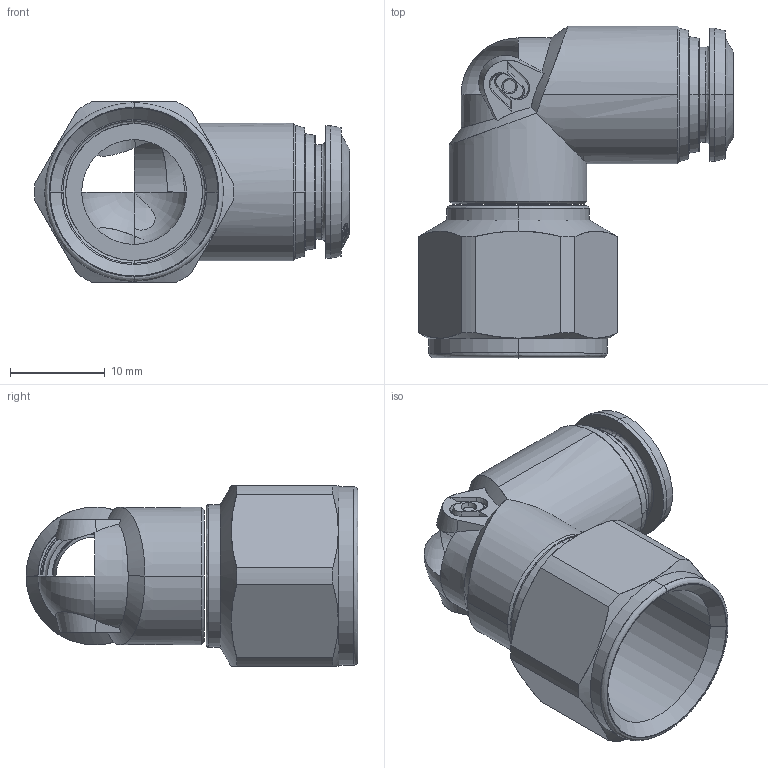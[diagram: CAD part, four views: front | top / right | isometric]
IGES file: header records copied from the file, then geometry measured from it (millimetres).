
Start section: SolidWorks IGES file using analytic representation for surfaces
Global section: file name: C:\Users\cad06\Desktop\Nuova cartella\5010600007A.IGS; native system: SolidWorks 2016; preprocessor: SolidWorks 2016; author: cad06; date: 160511.141447; units: millimetre
Bounding box: 33.2 x 34.95 x 19 mm (x, y, z)
Surface area: 3884.1 mm2 (no closed solid volume)
Topology: 0 solids, 0 shells, 225 faces, 2598 edges, 2596 vertices
Faces by surface type: bspline 139, revolution 86
